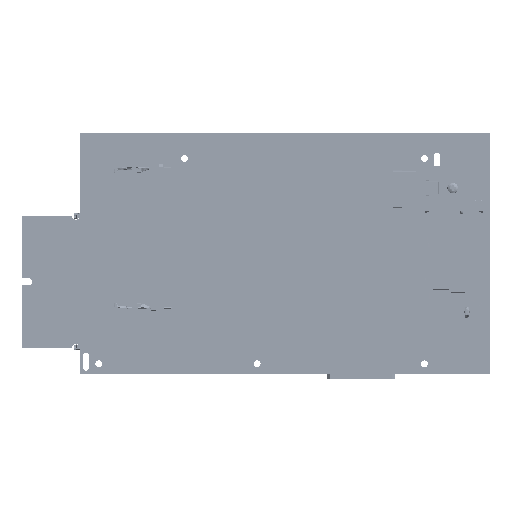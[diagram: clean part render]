
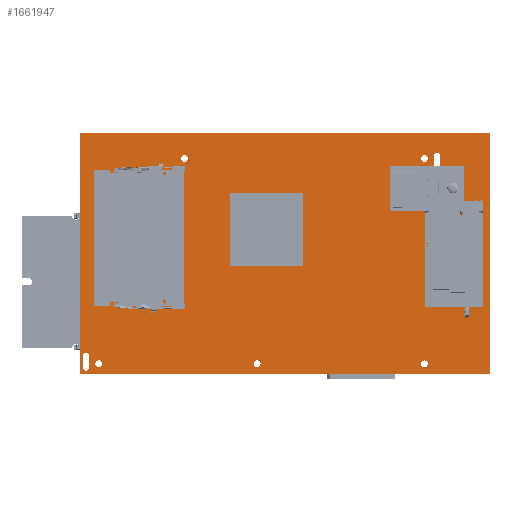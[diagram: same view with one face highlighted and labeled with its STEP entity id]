
A CAD part, top view. The second image highlights one B-rep face of the part: STEP entity #1661947.
In plain terms, the highlighted planar face has unit normal (0, 0, 1) as drawn and (0, -1, 0) by its records, which use the part's own axes.
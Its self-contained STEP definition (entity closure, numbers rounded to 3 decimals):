
#1661382=DIRECTION('',(1.,0.,0.));
#1661383=VECTOR('',#1661382,210.);
#1661384=CARTESIAN_POINT('',(-59.409,-19.2,169.366));
#1661385=LINE('',#1661384,#1661383);
#1661389=DIRECTION('',(0.,0.,-1.));
#1661390=VECTOR('',#1661389,123.5);
#1661391=CARTESIAN_POINT('',(150.591,-19.2,169.366));
#1661392=LINE('',#1661391,#1661390);
#1661396=DIRECTION('',(-1.,0.,0.));
#1661397=VECTOR('',#1661396,210.);
#1661398=CARTESIAN_POINT('',(150.591,-19.2,45.866));
#1661399=LINE('',#1661398,#1661397);
#1661403=DIRECTION('',(0.,0.,1.));
#1661404=VECTOR('',#1661403,123.5);
#1661405=CARTESIAN_POINT('',(-59.409,-19.2,45.866));
#1661406=LINE('',#1661405,#1661404);
#1661410=DIRECTION('',(0.,0.,-1.));
#1661411=VECTOR('',#1661410,6.);
#1661412=CARTESIAN_POINT('',(121.991,-19.2,157.466));
#1661413=LINE('',#1661412,#1661411);
#1661417=CARTESIAN_POINT('',(123.591,-19.2,151.466));
#1661418=DIRECTION('',(0.,-1.,0.));
#1661419=DIRECTION('',(-1.,0.,0.));
#1661420=AXIS2_PLACEMENT_3D('',#1661417,#1661418,#1661419);
#1661425=DIRECTION('',(0.,0.,1.));
#1661426=VECTOR('',#1661425,6.);
#1661427=CARTESIAN_POINT('',(125.191,-19.2,151.466));
#1661428=LINE('',#1661427,#1661426);
#1661432=CARTESIAN_POINT('',(123.591,-19.2,157.466));
#1661433=DIRECTION('',(0.,-1.,0.));
#1661434=DIRECTION('',(1.,0.,0.));
#1661435=AXIS2_PLACEMENT_3D('',#1661432,#1661433,#1661434);
#1661440=CARTESIAN_POINT('',(-56.409,-19.2,48.966));
#1661441=DIRECTION('',(0.,-1.,0.));
#1661442=DIRECTION('',(-1.,0.,0.));
#1661443=AXIS2_PLACEMENT_3D('',#1661440,#1661441,#1661442);
#1661448=DIRECTION('',(0.,0.,1.));
#1661449=VECTOR('',#1661448,6.);
#1661450=CARTESIAN_POINT('',(-54.809,-19.2,48.966));
#1661451=LINE('',#1661450,#1661449);
#1661455=CARTESIAN_POINT('',(-56.409,-19.2,54.966));
#1661456=DIRECTION('',(0.,-1.,0.));
#1661457=DIRECTION('',(1.,0.,0.));
#1661458=AXIS2_PLACEMENT_3D('',#1661455,#1661456,#1661457);
#1661463=DIRECTION('',(0.,0.,-1.));
#1661464=VECTOR('',#1661463,6.);
#1661465=CARTESIAN_POINT('',(-58.009,-19.2,54.966));
#1661466=LINE('',#1661465,#1661464);
#1661470=CARTESIAN_POINT('',(-49.809,-19.2,50.866));
#1661471=DIRECTION('',(0.,-1.,0.));
#1661472=DIRECTION('',(-1.,0.,0.));
#1661473=AXIS2_PLACEMENT_3D('',#1661470,#1661471,#1661472);
#1661478=CARTESIAN_POINT('',(-49.809,-19.2,50.866));
#1661479=DIRECTION('',(0.,-1.,0.));
#1661480=DIRECTION('',(1.,0.,0.));
#1661481=AXIS2_PLACEMENT_3D('',#1661478,#1661479,#1661480);
#1661486=CARTESIAN_POINT('',(31.292,-19.2,50.866));
#1661487=DIRECTION('',(0.,-1.,0.));
#1661488=DIRECTION('',(-1.,0.,0.));
#1661489=AXIS2_PLACEMENT_3D('',#1661486,#1661487,#1661488);
#1661494=CARTESIAN_POINT('',(31.292,-19.2,50.866));
#1661495=DIRECTION('',(0.,-1.,0.));
#1661496=DIRECTION('',(1.,0.,0.));
#1661497=AXIS2_PLACEMENT_3D('',#1661494,#1661495,#1661496);
#1661502=CARTESIAN_POINT('',(116.992,-19.2,50.866));
#1661503=DIRECTION('',(0.,-1.,0.));
#1661504=DIRECTION('',(-1.,0.,0.));
#1661505=AXIS2_PLACEMENT_3D('',#1661502,#1661503,#1661504);
#1661510=CARTESIAN_POINT('',(116.992,-19.2,50.866));
#1661511=DIRECTION('',(0.,-1.,0.));
#1661512=DIRECTION('',(1.,0.,0.));
#1661513=AXIS2_PLACEMENT_3D('',#1661510,#1661511,#1661512);
#1661518=CARTESIAN_POINT('',(116.991,-19.2,155.99));
#1661519=DIRECTION('',(0.,-1.,0.));
#1661520=DIRECTION('',(-1.,0.,0.));
#1661521=AXIS2_PLACEMENT_3D('',#1661518,#1661519,#1661520);
#1661526=CARTESIAN_POINT('',(116.991,-19.2,155.99));
#1661527=DIRECTION('',(0.,-1.,0.));
#1661528=DIRECTION('',(1.,0.,0.));
#1661529=AXIS2_PLACEMENT_3D('',#1661526,#1661527,#1661528);
#1661534=CARTESIAN_POINT('',(-5.883,-19.2,155.99));
#1661535=DIRECTION('',(0.,-1.,0.));
#1661536=DIRECTION('',(1.,0.,0.));
#1661537=AXIS2_PLACEMENT_3D('',#1661534,#1661535,#1661536);
#1661542=CARTESIAN_POINT('',(-5.883,-19.2,155.99));
#1661543=DIRECTION('',(0.,-1.,0.));
#1661544=DIRECTION('',(-1.,0.,0.));
#1661545=AXIS2_PLACEMENT_3D('',#1661542,#1661543,#1661544);
#1661700=CARTESIAN_POINT('',(-59.409,-19.2,169.366));
#1661701=CARTESIAN_POINT('',(150.591,-19.2,169.366));
#1661702=VERTEX_POINT('',#1661700);
#1661703=VERTEX_POINT('',#1661701);
#1661704=CARTESIAN_POINT('',(150.591,-19.2,45.866));
#1661705=VERTEX_POINT('',#1661704);
#1661706=CARTESIAN_POINT('',(-59.409,-19.2,45.866));
#1661707=VERTEX_POINT('',#1661706);
#1661708=CARTESIAN_POINT('',(121.991,-19.2,157.466));
#1661709=CARTESIAN_POINT('',(121.991,-19.2,151.466));
#1661710=VERTEX_POINT('',#1661708);
#1661711=VERTEX_POINT('',#1661709);
#1661712=CARTESIAN_POINT('',(125.191,-19.2,151.466));
#1661713=VERTEX_POINT('',#1661712);
#1661714=CARTESIAN_POINT('',(125.191,-19.2,157.466));
#1661715=VERTEX_POINT('',#1661714);
#1661716=CARTESIAN_POINT('',(-58.009,-19.2,48.966));
#1661717=CARTESIAN_POINT('',(-54.809,-19.2,48.966));
#1661718=VERTEX_POINT('',#1661716);
#1661719=VERTEX_POINT('',#1661717);
#1661720=CARTESIAN_POINT('',(-54.809,-19.2,54.966));
#1661721=VERTEX_POINT('',#1661720);
#1661722=CARTESIAN_POINT('',(-58.009,-19.2,54.966));
#1661723=VERTEX_POINT('',#1661722);
#1661744=CARTESIAN_POINT('',(-51.559,-19.2,50.866));
#1661745=CARTESIAN_POINT('',(-48.059,-19.2,50.866));
#1661746=VERTEX_POINT('',#1661744);
#1661747=VERTEX_POINT('',#1661745);
#1661748=CARTESIAN_POINT('',(29.542,-19.2,50.866));
#1661749=CARTESIAN_POINT('',(33.042,-19.2,50.866));
#1661750=VERTEX_POINT('',#1661748);
#1661751=VERTEX_POINT('',#1661749);
#1661752=CARTESIAN_POINT('',(115.242,-19.2,50.866));
#1661753=CARTESIAN_POINT('',(118.742,-19.2,50.866));
#1661754=VERTEX_POINT('',#1661752);
#1661755=VERTEX_POINT('',#1661753);
#1661756=CARTESIAN_POINT('',(115.241,-19.2,155.99));
#1661757=CARTESIAN_POINT('',(118.741,-19.2,155.99));
#1661758=VERTEX_POINT('',#1661756);
#1661759=VERTEX_POINT('',#1661757);
#1661760=CARTESIAN_POINT('',(-4.133,-19.2,155.99));
#1661761=CARTESIAN_POINT('',(-7.633,-19.2,155.99));
#1661762=VERTEX_POINT('',#1661760);
#1661763=VERTEX_POINT('',#1661761);
#1661886=CARTESIAN_POINT('',(12.944,-19.2,61.708));
#1661887=DIRECTION('',(0.,-1.,0.));
#1661888=DIRECTION('',(-1.,0.,0.));
#1661889=AXIS2_PLACEMENT_3D('',#1661886,#1661887,#1661888);
#1661890=PLANE('',#1661889);
#1661891=ORIENTED_EDGE('',*,*,#1661838,.T.);
#1661892=ORIENTED_EDGE('',*,*,#1661853,.T.);
#1661893=ORIENTED_EDGE('',*,*,#1661867,.T.);
#1661894=ORIENTED_EDGE('',*,*,#1661880,.T.);
#1661895=EDGE_LOOP('',(#1661891,#1661892,#1661893,#1661894));
#1661896=FACE_OUTER_BOUND('',#1661895,.F.);
#1661898=ORIENTED_EDGE('',*,*,#1661897,.T.);
#1661900=ORIENTED_EDGE('',*,*,#1661899,.T.);
#1661902=ORIENTED_EDGE('',*,*,#1661901,.T.);
#1661904=ORIENTED_EDGE('',*,*,#1661903,.T.);
#1661905=EDGE_LOOP('',(#1661898,#1661900,#1661902,#1661904));
#1661906=FACE_BOUND('',#1661905,.F.);
#1661908=ORIENTED_EDGE('',*,*,#1661907,.T.);
#1661910=ORIENTED_EDGE('',*,*,#1661909,.T.);
#1661912=ORIENTED_EDGE('',*,*,#1661911,.T.);
#1661914=ORIENTED_EDGE('',*,*,#1661913,.T.);
#1661915=EDGE_LOOP('',(#1661908,#1661910,#1661912,#1661914));
#1661916=FACE_BOUND('',#1661915,.F.);
#1661918=ORIENTED_EDGE('',*,*,#1661917,.T.);
#1661920=ORIENTED_EDGE('',*,*,#1661919,.T.);
#1661921=EDGE_LOOP('',(#1661918,#1661920));
#1661922=FACE_BOUND('',#1661921,.F.);
#1661924=ORIENTED_EDGE('',*,*,#1661923,.T.);
#1661926=ORIENTED_EDGE('',*,*,#1661925,.T.);
#1661927=EDGE_LOOP('',(#1661924,#1661926));
#1661928=FACE_BOUND('',#1661927,.F.);
#1661930=ORIENTED_EDGE('',*,*,#1661929,.T.);
#1661932=ORIENTED_EDGE('',*,*,#1661931,.T.);
#1661933=EDGE_LOOP('',(#1661930,#1661932));
#1661934=FACE_BOUND('',#1661933,.F.);
#1661936=ORIENTED_EDGE('',*,*,#1661935,.T.);
#1661938=ORIENTED_EDGE('',*,*,#1661937,.T.);
#1661939=EDGE_LOOP('',(#1661936,#1661938));
#1661940=FACE_BOUND('',#1661939,.F.);
#1661942=ORIENTED_EDGE('',*,*,#1661941,.T.);
#1661944=ORIENTED_EDGE('',*,*,#1661943,.T.);
#1661945=EDGE_LOOP('',(#1661942,#1661944));
#1661946=FACE_BOUND('',#1661945,.F.);
#1661421=CIRCLE('',#1661420,1.6);
#1661436=CIRCLE('',#1661435,1.6);
#1661444=CIRCLE('',#1661443,1.6);
#1661459=CIRCLE('',#1661458,1.6);
#1661474=CIRCLE('',#1661473,1.75);
#1661482=CIRCLE('',#1661481,1.75);
#1661490=CIRCLE('',#1661489,1.75);
#1661498=CIRCLE('',#1661497,1.75);
#1661506=CIRCLE('',#1661505,1.75);
#1661514=CIRCLE('',#1661513,1.75);
#1661522=CIRCLE('',#1661521,1.75);
#1661530=CIRCLE('',#1661529,1.75);
#1661538=CIRCLE('',#1661537,1.75);
#1661546=CIRCLE('',#1661545,1.75);
#1661838=EDGE_CURVE('',#1661702,#1661703,#1661385,.T.);
#1661853=EDGE_CURVE('',#1661703,#1661705,#1661392,.T.);
#1661867=EDGE_CURVE('',#1661705,#1661707,#1661399,.T.);
#1661880=EDGE_CURVE('',#1661707,#1661702,#1661406,.T.);
#1661897=EDGE_CURVE('',#1661710,#1661711,#1661413,.T.);
#1661899=EDGE_CURVE('',#1661711,#1661713,#1661421,.T.);
#1661901=EDGE_CURVE('',#1661713,#1661715,#1661428,.T.);
#1661903=EDGE_CURVE('',#1661715,#1661710,#1661436,.T.);
#1661907=EDGE_CURVE('',#1661718,#1661719,#1661444,.T.);
#1661909=EDGE_CURVE('',#1661719,#1661721,#1661451,.T.);
#1661911=EDGE_CURVE('',#1661721,#1661723,#1661459,.T.);
#1661913=EDGE_CURVE('',#1661723,#1661718,#1661466,.T.);
#1661917=EDGE_CURVE('',#1661746,#1661747,#1661474,.T.);
#1661919=EDGE_CURVE('',#1661747,#1661746,#1661482,.T.);
#1661923=EDGE_CURVE('',#1661750,#1661751,#1661490,.T.);
#1661925=EDGE_CURVE('',#1661751,#1661750,#1661498,.T.);
#1661929=EDGE_CURVE('',#1661754,#1661755,#1661506,.T.);
#1661931=EDGE_CURVE('',#1661755,#1661754,#1661514,.T.);
#1661935=EDGE_CURVE('',#1661758,#1661759,#1661522,.T.);
#1661937=EDGE_CURVE('',#1661759,#1661758,#1661530,.T.);
#1661941=EDGE_CURVE('',#1661762,#1661763,#1661538,.T.);
#1661943=EDGE_CURVE('',#1661763,#1661762,#1661546,.T.);
#1661947=ADVANCED_FACE('',(#1661896,#1661906,#1661916,#1661922,#1661928,
#1661934,#1661940,#1661946),#1661890,.T.);
